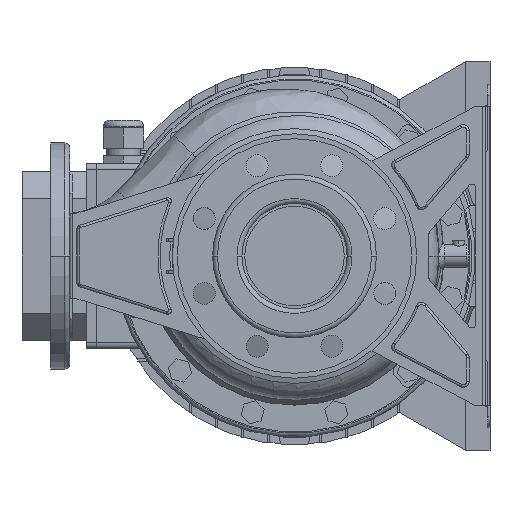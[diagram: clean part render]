
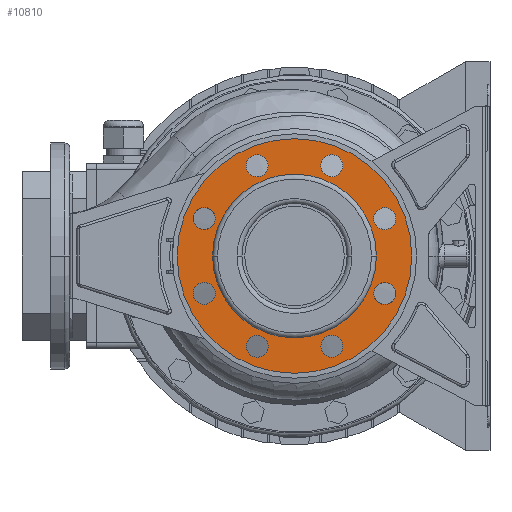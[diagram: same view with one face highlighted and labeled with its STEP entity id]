
A CAD part, left-side view. The second image highlights one B-rep face of the part: STEP entity #10810.
In plain terms, the highlighted planar face has unit normal (-1, 0, 0).
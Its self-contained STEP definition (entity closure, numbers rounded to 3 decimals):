
#10087=CARTESIAN_POINT('',(14.,0.,0.));
#10088=DIRECTION('',(-1.,0.,0.));
#10089=DIRECTION('',(0.,1.,0.));
#10090=AXIS2_PLACEMENT_3D('',#10087,#10088,#10089);
#10092=CARTESIAN_POINT('',(14.,0.,0.));
#10093=DIRECTION('',(1.,0.,0.));
#10094=DIRECTION('',(0.,1.,0.));
#10095=AXIS2_PLACEMENT_3D('',#10092,#10093,#10094);
#10097=CARTESIAN_POINT('',(14.,-73.91,30.615));
#10098=DIRECTION('',(1.,0.,0.));
#10099=DIRECTION('',(0.,1.,0.));
#10100=AXIS2_PLACEMENT_3D('',#10097,#10098,#10099);
#10102=CARTESIAN_POINT('',(14.,-73.91,30.615));
#10103=DIRECTION('',(1.,0.,0.));
#10104=DIRECTION('',(0.,-1.,0.));
#10105=AXIS2_PLACEMENT_3D('',#10102,#10103,#10104);
#10107=CARTESIAN_POINT('',(14.,-73.91,-30.615));
#10108=DIRECTION('',(1.,0.,0.));
#10109=DIRECTION('',(0.,0.707,0.707));
#10110=AXIS2_PLACEMENT_3D('',#10107,#10108,#10109);
#10112=CARTESIAN_POINT('',(14.,-73.91,-30.615));
#10113=DIRECTION('',(1.,0.,0.));
#10114=DIRECTION('',(0.,-0.707,-0.707));
#10115=AXIS2_PLACEMENT_3D('',#10112,#10113,#10114);
#10117=CARTESIAN_POINT('',(14.,-30.615,-73.91));
#10118=DIRECTION('',(1.,0.,0.));
#10119=DIRECTION('',(0.,0.,1.));
#10120=AXIS2_PLACEMENT_3D('',#10117,#10118,#10119);
#10122=CARTESIAN_POINT('',(14.,-30.615,-73.91));
#10123=DIRECTION('',(1.,0.,0.));
#10124=DIRECTION('',(0.,0.,-1.));
#10125=AXIS2_PLACEMENT_3D('',#10122,#10123,#10124);
#10127=CARTESIAN_POINT('',(14.,30.615,-73.91));
#10128=DIRECTION('',(1.,0.,0.));
#10129=DIRECTION('',(0.,-0.707,0.707));
#10130=AXIS2_PLACEMENT_3D('',#10127,#10128,#10129);
#10132=CARTESIAN_POINT('',(14.,30.615,-73.91));
#10133=DIRECTION('',(1.,0.,0.));
#10134=DIRECTION('',(0.,0.707,-0.707));
#10135=AXIS2_PLACEMENT_3D('',#10132,#10133,#10134);
#10137=CARTESIAN_POINT('',(14.,73.91,-30.615));
#10138=DIRECTION('',(1.,0.,0.));
#10139=DIRECTION('',(0.,-1.,0.));
#10140=AXIS2_PLACEMENT_3D('',#10137,#10138,#10139);
#10142=CARTESIAN_POINT('',(14.,73.91,-30.615));
#10143=DIRECTION('',(1.,0.,0.));
#10144=DIRECTION('',(0.,1.,0.));
#10145=AXIS2_PLACEMENT_3D('',#10142,#10143,#10144);
#10147=CARTESIAN_POINT('',(14.,73.91,30.615));
#10148=DIRECTION('',(1.,0.,0.));
#10149=DIRECTION('',(0.,-0.707,-0.707));
#10150=AXIS2_PLACEMENT_3D('',#10147,#10148,#10149);
#10152=CARTESIAN_POINT('',(14.,73.91,30.615));
#10153=DIRECTION('',(1.,0.,0.));
#10154=DIRECTION('',(0.,0.707,0.707));
#10155=AXIS2_PLACEMENT_3D('',#10152,#10153,#10154);
#10157=CARTESIAN_POINT('',(14.,30.615,73.91));
#10158=DIRECTION('',(1.,0.,0.));
#10159=DIRECTION('',(0.,0.,-1.));
#10160=AXIS2_PLACEMENT_3D('',#10157,#10158,#10159);
#10162=CARTESIAN_POINT('',(14.,30.615,73.91));
#10163=DIRECTION('',(1.,0.,0.));
#10164=DIRECTION('',(0.,0.,1.));
#10165=AXIS2_PLACEMENT_3D('',#10162,#10163,#10164);
#10167=CARTESIAN_POINT('',(14.,-30.615,73.91));
#10168=DIRECTION('',(1.,0.,0.));
#10169=DIRECTION('',(0.,0.707,-0.707));
#10170=AXIS2_PLACEMENT_3D('',#10167,#10168,#10169);
#10172=CARTESIAN_POINT('',(14.,-30.615,73.91));
#10173=DIRECTION('',(1.,0.,0.));
#10174=DIRECTION('',(0.,-0.707,0.707));
#10175=AXIS2_PLACEMENT_3D('',#10172,#10173,#10174);
#10177=CARTESIAN_POINT('',(14.,0.,0.));
#10178=DIRECTION('',(1.,0.,0.));
#10179=DIRECTION('',(0.,1.,0.));
#10180=AXIS2_PLACEMENT_3D('',#10177,#10178,#10179);
#10190=CARTESIAN_POINT('',(14.,0.,0.));
#10191=DIRECTION('',(-1.,0.,0.));
#10192=DIRECTION('',(0.,1.,0.));
#10193=AXIS2_PLACEMENT_3D('',#10190,#10191,#10192);
#10330=CARTESIAN_POINT('',(14.,96.,0.));
#10332=VERTEX_POINT('',#10330);
#10333=CARTESIAN_POINT('',(14.,67.,0.));
#10335=VERTEX_POINT('',#10333);
#10362=CARTESIAN_POINT('',(14.,-96.,0.));
#10364=VERTEX_POINT('',#10362);
#10365=CARTESIAN_POINT('',(14.,-67.,0.));
#10367=VERTEX_POINT('',#10365);
#10377=CARTESIAN_POINT('',(14.,-64.91,30.615));
#10378=CARTESIAN_POINT('',(14.,-82.91,30.615));
#10379=VERTEX_POINT('',#10377);
#10380=VERTEX_POINT('',#10378);
#10385=CARTESIAN_POINT('',(14.,-67.546,-24.251));
#10386=CARTESIAN_POINT('',(14.,-80.274,-36.979));
#10387=VERTEX_POINT('',#10385);
#10388=VERTEX_POINT('',#10386);
#10393=CARTESIAN_POINT('',(14.,-30.615,-64.91));
#10394=CARTESIAN_POINT('',(14.,-30.615,-82.91));
#10395=VERTEX_POINT('',#10393);
#10396=VERTEX_POINT('',#10394);
#10401=CARTESIAN_POINT('',(14.,24.251,-67.546));
#10402=CARTESIAN_POINT('',(14.,36.979,-80.274));
#10403=VERTEX_POINT('',#10401);
#10404=VERTEX_POINT('',#10402);
#10409=CARTESIAN_POINT('',(14.,64.91,-30.615));
#10410=CARTESIAN_POINT('',(14.,82.91,-30.615));
#10411=VERTEX_POINT('',#10409);
#10412=VERTEX_POINT('',#10410);
#10417=CARTESIAN_POINT('',(14.,67.546,24.251));
#10418=CARTESIAN_POINT('',(14.,80.274,36.979));
#10419=VERTEX_POINT('',#10417);
#10420=VERTEX_POINT('',#10418);
#10425=CARTESIAN_POINT('',(14.,30.615,64.91));
#10426=CARTESIAN_POINT('',(14.,30.615,82.91));
#10427=VERTEX_POINT('',#10425);
#10428=VERTEX_POINT('',#10426);
#10433=CARTESIAN_POINT('',(14.,-24.251,67.546));
#10434=CARTESIAN_POINT('',(14.,-36.979,80.274));
#10435=VERTEX_POINT('',#10433);
#10436=VERTEX_POINT('',#10434);
#10747=CARTESIAN_POINT('',(14.,0.,0.));
#10748=DIRECTION('',(1.,0.,0.));
#10749=DIRECTION('',(0.,-1.,0.));
#10750=AXIS2_PLACEMENT_3D('',#10747,#10748,#10749);
#10751=PLANE('',#10750);
#10752=ORIENTED_EDGE('',*,*,#10740,.F.);
#10753=ORIENTED_EDGE('',*,*,#10729,.T.);
#10754=EDGE_LOOP('',(#10752,#10753));
#10755=FACE_OUTER_BOUND('',#10754,.F.);
#10757=ORIENTED_EDGE('',*,*,#10756,.F.);
#10759=ORIENTED_EDGE('',*,*,#10758,.T.);
#10760=EDGE_LOOP('',(#10757,#10759));
#10761=FACE_BOUND('',#10760,.F.);
#10763=ORIENTED_EDGE('',*,*,#10762,.F.);
#10765=ORIENTED_EDGE('',*,*,#10764,.F.);
#10766=EDGE_LOOP('',(#10763,#10765));
#10767=FACE_BOUND('',#10766,.F.);
#10769=ORIENTED_EDGE('',*,*,#10768,.F.);
#10771=ORIENTED_EDGE('',*,*,#10770,.F.);
#10772=EDGE_LOOP('',(#10769,#10771));
#10773=FACE_BOUND('',#10772,.F.);
#10775=ORIENTED_EDGE('',*,*,#10774,.F.);
#10777=ORIENTED_EDGE('',*,*,#10776,.F.);
#10778=EDGE_LOOP('',(#10775,#10777));
#10779=FACE_BOUND('',#10778,.F.);
#10781=ORIENTED_EDGE('',*,*,#10780,.F.);
#10783=ORIENTED_EDGE('',*,*,#10782,.F.);
#10784=EDGE_LOOP('',(#10781,#10783));
#10785=FACE_BOUND('',#10784,.F.);
#10787=ORIENTED_EDGE('',*,*,#10786,.F.);
#10789=ORIENTED_EDGE('',*,*,#10788,.F.);
#10790=EDGE_LOOP('',(#10787,#10789));
#10791=FACE_BOUND('',#10790,.F.);
#10793=ORIENTED_EDGE('',*,*,#10792,.F.);
#10795=ORIENTED_EDGE('',*,*,#10794,.F.);
#10796=EDGE_LOOP('',(#10793,#10795));
#10797=FACE_BOUND('',#10796,.F.);
#10799=ORIENTED_EDGE('',*,*,#10798,.F.);
#10801=ORIENTED_EDGE('',*,*,#10800,.F.);
#10802=EDGE_LOOP('',(#10799,#10801));
#10803=FACE_BOUND('',#10802,.F.);
#10805=ORIENTED_EDGE('',*,*,#10804,.F.);
#10807=ORIENTED_EDGE('',*,*,#10806,.F.);
#10808=EDGE_LOOP('',(#10805,#10807));
#10809=FACE_BOUND('',#10808,.F.);
#10091=CIRCLE('',#10090,96.);
#10096=CIRCLE('',#10095,96.);
#10101=CIRCLE('',#10100,9.);
#10106=CIRCLE('',#10105,9.);
#10111=CIRCLE('',#10110,9.);
#10116=CIRCLE('',#10115,9.);
#10121=CIRCLE('',#10120,9.);
#10126=CIRCLE('',#10125,9.);
#10131=CIRCLE('',#10130,9.);
#10136=CIRCLE('',#10135,9.);
#10141=CIRCLE('',#10140,9.);
#10146=CIRCLE('',#10145,9.);
#10151=CIRCLE('',#10150,9.);
#10156=CIRCLE('',#10155,9.);
#10161=CIRCLE('',#10160,9.);
#10166=CIRCLE('',#10165,9.);
#10171=CIRCLE('',#10170,9.);
#10176=CIRCLE('',#10175,9.);
#10181=CIRCLE('',#10180,67.);
#10194=CIRCLE('',#10193,67.);
#10729=EDGE_CURVE('',#10332,#10364,#10096,.T.);
#10740=EDGE_CURVE('',#10332,#10364,#10091,.T.);
#10756=EDGE_CURVE('',#10335,#10367,#10181,.T.);
#10758=EDGE_CURVE('',#10335,#10367,#10194,.T.);
#10762=EDGE_CURVE('',#10379,#10380,#10101,.T.);
#10764=EDGE_CURVE('',#10380,#10379,#10106,.T.);
#10768=EDGE_CURVE('',#10387,#10388,#10111,.T.);
#10770=EDGE_CURVE('',#10388,#10387,#10116,.T.);
#10774=EDGE_CURVE('',#10395,#10396,#10121,.T.);
#10776=EDGE_CURVE('',#10396,#10395,#10126,.T.);
#10780=EDGE_CURVE('',#10403,#10404,#10131,.T.);
#10782=EDGE_CURVE('',#10404,#10403,#10136,.T.);
#10786=EDGE_CURVE('',#10411,#10412,#10141,.T.);
#10788=EDGE_CURVE('',#10412,#10411,#10146,.T.);
#10792=EDGE_CURVE('',#10419,#10420,#10151,.T.);
#10794=EDGE_CURVE('',#10420,#10419,#10156,.T.);
#10798=EDGE_CURVE('',#10427,#10428,#10161,.T.);
#10800=EDGE_CURVE('',#10428,#10427,#10166,.T.);
#10804=EDGE_CURVE('',#10435,#10436,#10171,.T.);
#10806=EDGE_CURVE('',#10436,#10435,#10176,.T.);
#10810=ADVANCED_FACE('',(#10755,#10761,#10767,#10773,#10779,#10785,#10791,
#10797,#10803,#10809),#10751,.F.);
